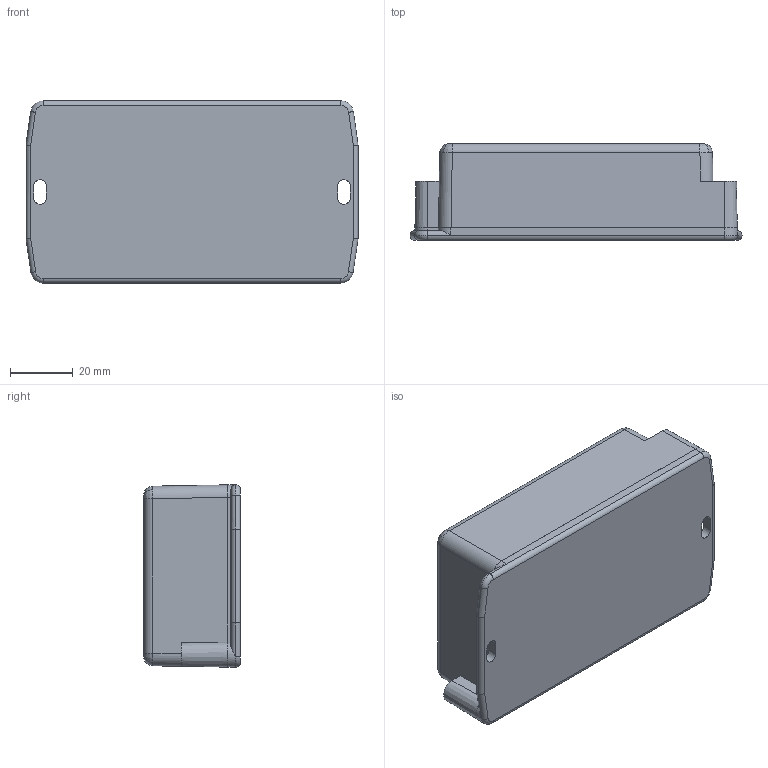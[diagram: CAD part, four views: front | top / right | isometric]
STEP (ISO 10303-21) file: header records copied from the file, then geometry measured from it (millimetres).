
FILE_DESCRIPTION (( 'STEP AP203' ), '1' );
FILE_NAME ('PM20.STEP', '2015-08-01T05:53:31', ( 'admin' ), ( 'Hewlett-Packard Company' ), 'SwSTEP 2.0', 'SolidWorks 2014', '' );
FILE_SCHEMA (( 'CONFIG_CONTROL_DESIGN' ));
Length unit declared in the file: millimetre
Products named in the file (4): PM20
Assembly tree (4 placements, depth 2):
  PM20
    PM20
    PM20
    PM20  x2
Bounding box: 106 x 30.9 x 58.2 mm (x, y, z)
Volume: 46637.7 mm3; surface area: 41904.5 mm2
Topology: 4 solids, 4 shells, 264 faces, 644 edges, 408 vertices
Faces by surface type: cylinder 120, plane 98, cone 18, bspline 18, torus 10
Entity records: 7495 total; most frequent: CARTESIAN_POINT 2094, ORIENTED_EDGE 1056, DIRECTION 1035, EDGE_CURVE 528, AXIS2_PLACEMENT_3D 389, VERTEX_POINT 335, VECTOR 257, LINE 257
